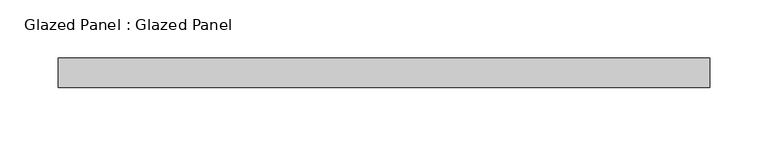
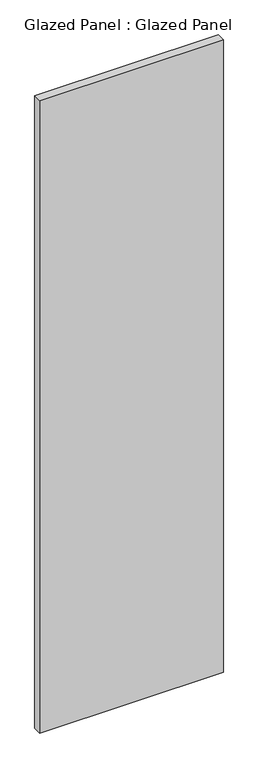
"""IFC4 building model written with IfcOpenShell, lengths in millimetres: plate geometry, Glazed Panel : Glazed Panel."""

from ifc_helpers import new_model, si_unit, origin, origin_with_axes, place, context, project, spatial, polyline, outline, extrude, source, transform, mapped, element, save


def glazed_panel_glazed_panel_b5ae23ca(model_context):
    return source(origin(), model_context, "Body", "SweptSolid", [
        extrude(outline(polyline([(280.19375, 38.1), (-280.19375, 38.1), (-280.19375, 63.5), (280.19375, 63.5), (280.19375, 38.1)])), origin_with_axes(), (0.0, 0.0, 1.0), 2038.35),
    ])


if __name__ == "__main__":
    model = new_model("IFC4")
    model_context = context("Model", 3, world=origin())
    ifc_project = project(units=[si_unit("LENGTHUNIT", "METRE", prefix="MILLI")], contexts=[model_context])
    site = spatial("IfcSite", under=ifc_project)
    building = spatial("IfcBuilding", under=site)
    placement = place(None, origin())
    glazed_panel_glazed_panel_shape = glazed_panel_glazed_panel_b5ae23ca(model_context)
    element("IfcPlate", 1, ObjectType="Glazed Panel : Glazed Panel", at=placement, inside=building, context=model_context, shape_type="MappedRepresentation", body=[
        mapped(glazed_panel_glazed_panel_shape, transform((0.0, 0.0, 0.0), x_axis=(1.0, 0.0, 0.0), y_axis=(0.0, 1.0, 0.0), z_axis=(0.0, 0.0, 1.0))),
    ])
    save(model, "model.ifc")
